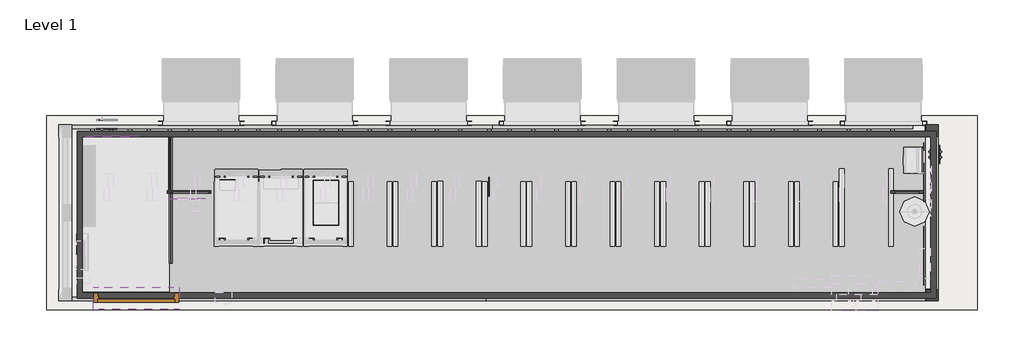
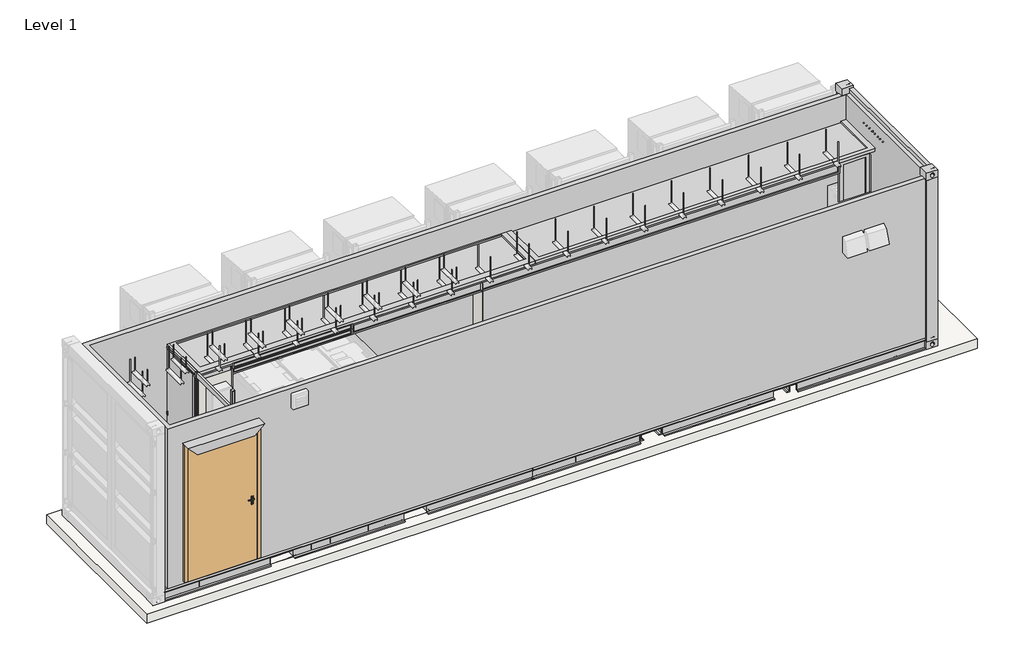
# One storey, part 1 of 2: 45 beams, 7 walls, 2 doors, 2 slabs.
"""IFC4 building model written with IfcOpenShell, lengths in millimetres."""

from ifc_helpers import new_model, si_unit, frame, origin, place, context, project, spatial, polyline, circle_curve, outline, extrude, transform, mapped, element, save
from ifc_brep_helpers import plane_surface, cylinder_surface, advanced_brep
from components import beam_16bb976f, beam_f6256054, beam_cf861e54, beam_f05dd575, c120x45_62af5141, c120x45_5c9b4daa, foot_stand_and_door_shade_foot_stand_and_door_shade_9e24d134, door_5ed18baa, door_f1603644, slab_0a3f1999

model = new_model("IFC4")

# Units and contexts
model_context = context("Model", 3, world=origin())
ifc_project = project(units=[si_unit("LENGTHUNIT", "METRE", prefix="MILLI")], contexts=[model_context])

# Site, building, storey
site = spatial("IfcSite", under=ifc_project)
building = spatial("IfcBuilding", under=site)
storey = spatial("IfcBuildingStorey", under=building, Name="Level 1", Elevation=0.0)

# Beams
placement = place(None, origin())
beam_shape = beam_16bb976f(model_context)
element("IfcBeam", 1, ObjectType="Base_cover_Config-6 : Base_cover_Config-6", at=placement, inside=storey, context=model_context, shape_type="MappedRepresentation", body=[
    mapped(beam_shape, transform((-1145.3838032, -1779.2772175, 0.0), x_axis=(1.0, 0.0, 0.0), y_axis=(0.0, 1.0, 0.0), z_axis=(0.0, 0.0, 1.0))),
])
beam_2_shape = beam_f6256054(model_context)
element("IfcBeam", 2, ObjectType="Insulation_config6 : Insulation_config6", at=placement, inside=storey, context=model_context, shape_type="MappedRepresentation", body=[
    mapped(beam_2_shape, transform((-5492.9481959, -3404.7772175, 0.0), x_axis=(1.0, 0.0, 0.0), y_axis=(0.0, 1.0, 0.0), z_axis=(0.0, 0.0, 1.0))),
])
beam_3_shape = beam_cf861e54(model_context)
element("IfcBeam", 3, ObjectType="Inside Partition Config-6 : Inside Partition Config-6", at=placement, inside=storey, context=model_context, shape_type="MappedRepresentation", body=[
    mapped(beam_3_shape, transform((-1088.8167405, -1059.0549953, 4.2), x_axis=(1.0, 0.0, 0.0), y_axis=(0.0, 1.0, 0.0), z_axis=(0.0, 0.0, 1.0))),
])
beam_4_shape = beam_f05dd575(model_context)
element("IfcBeam", 4, ObjectType="Config-6 Right side wall acc : Config-6 Right side wall acc", at=placement, inside=storey, context=model_context, shape_type="MappedRepresentation", body=[
    mapped(beam_4_shape, transform((4978.8891977, -2915.458701, 250.9999942), x_axis=(1.0, 0.0, 0.0), y_axis=(0.0, 1.0, 0.0), z_axis=(0.0, 0.0, 1.0))),
])
c120x45_shape = c120x45_62af5141(model_context)
element("IfcBeam", 5, ObjectType="M_C-Channel_305x105 : C120x45", at=placement, inside=storey, context=model_context, shape_type="MappedRepresentation", body=[
    mapped(c120x45_shape, transform((-3750.0018007, -1755.2772175, 324.0), x_axis=(0.0, -1.0, 0.0), y_axis=(1.0, 0.0, 0.0), z_axis=(0.0, 0.0, 1.0))),
])
element("IfcBeam", 6, ObjectType="M_C-Channel_305x105 : C120x45", at=placement, inside=storey, context=model_context, shape_type="MappedRepresentation", body=[
    mapped(c120x45_shape, transform((-3490.0018007, -1755.2772175, 324.0), x_axis=(0.0, -1.0, 0.0), y_axis=(1.0, 0.0, 0.0), z_axis=(0.0, 0.0, 1.0))),
])
element("IfcBeam", 7, ObjectType="M_C-Channel_305x105 : C120x45", at=placement, inside=storey, context=model_context, shape_type="MappedRepresentation", body=[
    mapped(c120x45_shape, transform((-3230.0018007, -1755.2772175, 324.0), x_axis=(0.0, -1.0, 0.0), y_axis=(1.0, 0.0, 0.0), z_axis=(0.0, 0.0, 1.0))),
])
element("IfcBeam", 8, ObjectType="M_C-Channel_305x105 : C120x45", at=placement, inside=storey, context=model_context, shape_type="MappedRepresentation", body=[
    mapped(c120x45_shape, transform((-2970.0018007, -1755.2772175, 324.0), x_axis=(0.0, -1.0, 0.0), y_axis=(1.0, 0.0, 0.0), z_axis=(0.0, 0.0, 1.0))),
])
element("IfcBeam", 9, ObjectType="M_C-Channel_305x105 : C120x45", at=placement, inside=storey, context=model_context, shape_type="MappedRepresentation", body=[
    mapped(c120x45_shape, transform((-2392.0018007, -1755.2772175, 324.0), x_axis=(0.0, -1.0, 0.0), y_axis=(1.0, 0.0, 0.0), z_axis=(0.0, 0.0, 1.0))),
])
element("IfcBeam", 10, ObjectType="M_C-Channel_305x105 : C120x45", at=placement, inside=storey, context=model_context, shape_type="MappedRepresentation", body=[
    mapped(c120x45_shape, transform((-2681.0018007, -1755.2772175, 324.0), x_axis=(0.0, -1.0, 0.0), y_axis=(1.0, 0.0, 0.0), z_axis=(0.0, 0.0, 1.0))),
])
element("IfcBeam", 11, ObjectType="M_C-Channel_305x105 : C120x45", at=placement, inside=storey, context=model_context, shape_type="MappedRepresentation", body=[
    mapped(c120x45_shape, transform((-1750.0018007, -1755.2772175, 324.0), x_axis=(0.0, -1.0, 0.0), y_axis=(1.0, 0.0, 0.0), z_axis=(0.0, 0.0, 1.0))),
])
element("IfcBeam", 12, ObjectType="M_C-Channel_305x105 : C120x45", at=placement, inside=storey, context=model_context, shape_type="MappedRepresentation", body=[
    mapped(c120x45_shape, transform((-1455.0018007, -1755.2772175, 324.0), x_axis=(0.0, -1.0, 0.0), y_axis=(1.0, 0.0, 0.0), z_axis=(0.0, 0.0, 1.0))),
])
element("IfcBeam", 13, ObjectType="M_C-Channel_305x105 : C120x45", at=placement, inside=storey, context=model_context, shape_type="MappedRepresentation", body=[
    mapped(c120x45_shape, transform((-1158.964023, -1755.2772175, 324.0), x_axis=(0.0, -1.0, 0.0), y_axis=(1.0, 0.0, 0.0), z_axis=(0.0, 0.0, 1.0))),
])
element("IfcBeam", 14, ObjectType="M_C-Channel_305x105 : C120x45", at=placement, inside=storey, context=model_context, shape_type="MappedRepresentation", body=[
    mapped(c120x45_shape, transform((-865.0018007, -1755.2772175, 324.0), x_axis=(0.0, -1.0, 0.0), y_axis=(1.0, 0.0, 0.0), z_axis=(0.0, 0.0, 1.0))),
])
element("IfcBeam", 15, ObjectType="M_C-Channel_305x105 : C120x45", at=placement, inside=storey, context=model_context, shape_type="MappedRepresentation", body=[
    mapped(c120x45_shape, transform((-570.0018007, -1755.2772175, 324.0), x_axis=(0.0, -1.0, 0.0), y_axis=(1.0, 0.0, 0.0), z_axis=(0.0, 0.0, 1.0))),
])
element("IfcBeam", 16, ObjectType="M_C-Channel_305x105 : C120x45", at=placement, inside=storey, context=model_context, shape_type="MappedRepresentation", body=[
    mapped(c120x45_shape, transform((-312.0018007, -1755.2772175, 324.0), x_axis=(0.0, -1.0, 0.0), y_axis=(1.0, 0.0, 0.0), z_axis=(0.0, 0.0, 1.0))),
])
element("IfcBeam", 17, ObjectType="M_C-Channel_305x105 : C120x45", at=placement, inside=storey, context=model_context, shape_type="MappedRepresentation", body=[
    mapped(c120x45_shape, transform((372.9981993, -1755.2772175, 324.0), x_axis=(0.0, -1.0, 0.0), y_axis=(1.0, 0.0, 0.0), z_axis=(0.0, 0.0, 1.0))),
])
element("IfcBeam", 18, ObjectType="M_C-Channel_305x105 : C120x45", at=placement, inside=storey, context=model_context, shape_type="MappedRepresentation", body=[
    mapped(c120x45_shape, transform((697.9981993, -1755.2772175, 324.0), x_axis=(0.0, -1.0, 0.0), y_axis=(1.0, 0.0, 0.0), z_axis=(0.0, 0.0, 1.0))),
])
element("IfcBeam", 19, ObjectType="M_C-Channel_305x105 : C120x45", at=placement, inside=storey, context=model_context, shape_type="MappedRepresentation", body=[
    mapped(c120x45_shape, transform((1022.9981993, -1755.2772175, 324.0), x_axis=(0.0, -1.0, 0.0), y_axis=(1.0, 0.0, 0.0), z_axis=(0.0, 0.0, 1.0))),
])
element("IfcBeam", 20, ObjectType="M_C-Channel_305x105 : C120x45", at=placement, inside=storey, context=model_context, shape_type="MappedRepresentation", body=[
    mapped(c120x45_shape, transform((1347.9981993, -1755.2772175, 324.0), x_axis=(0.0, -1.0, 0.0), y_axis=(1.0, 0.0, 0.0), z_axis=(0.0, 0.0, 1.0))),
])
element("IfcBeam", 21, ObjectType="M_C-Channel_305x105 : C120x45", at=placement, inside=storey, context=model_context, shape_type="MappedRepresentation", body=[
    mapped(c120x45_shape, transform((2032.9981993, -1755.2772175, 324.0), x_axis=(0.0, -1.0, 0.0), y_axis=(1.0, 0.0, 0.0), z_axis=(0.0, 0.0, 1.0))),
])
element("IfcBeam", 22, ObjectType="M_C-Channel_305x105 : C120x45", at=placement, inside=storey, context=model_context, shape_type="MappedRepresentation", body=[
    mapped(c120x45_shape, transform((2357.9981993, -1755.2772175, 324.0), x_axis=(0.0, -1.0, 0.0), y_axis=(1.0, 0.0, 0.0), z_axis=(0.0, 0.0, 1.0))),
])
element("IfcBeam", 23, ObjectType="M_C-Channel_305x105 : C120x45", at=placement, inside=storey, context=model_context, shape_type="MappedRepresentation", body=[
    mapped(c120x45_shape, transform((2682.9981993, -1755.2772175, 324.0), x_axis=(0.0, -1.0, 0.0), y_axis=(1.0, 0.0, 0.0), z_axis=(0.0, 0.0, 1.0))),
])
element("IfcBeam", 24, ObjectType="M_C-Channel_305x105 : C120x45", at=placement, inside=storey, context=model_context, shape_type="MappedRepresentation", body=[
    mapped(c120x45_shape, transform((3007.9981993, -1755.2772175, 324.0), x_axis=(0.0, -1.0, 0.0), y_axis=(1.0, 0.0, 0.0), z_axis=(0.0, 0.0, 1.0))),
])
element("IfcBeam", 25, ObjectType="M_C-Channel_305x105 : C120x45", at=placement, inside=storey, context=model_context, shape_type="MappedRepresentation", body=[
    mapped(c120x45_shape, transform((3692.9981993, -1755.2772175, 324.0), x_axis=(0.0, -1.0, 0.0), y_axis=(1.0, 0.0, 0.0), z_axis=(0.0, 0.0, 1.0))),
])
element("IfcBeam", 26, ObjectType="M_C-Channel_305x105 : C120x45", at=placement, inside=storey, context=model_context, shape_type="MappedRepresentation", body=[
    mapped(c120x45_shape, transform((4017.9981993, -1755.2772175, 324.0), x_axis=(0.0, -1.0, 0.0), y_axis=(1.0, 0.0, 0.0), z_axis=(0.0, 0.0, 1.0))),
])
element("IfcBeam", 27, ObjectType="M_C-Channel_305x105 : C120x45", at=placement, inside=storey, context=model_context, shape_type="MappedRepresentation", body=[
    mapped(c120x45_shape, transform((4342.9981993, -1755.2772175, 324.0), x_axis=(0.0, -1.0, 0.0), y_axis=(1.0, 0.0, 0.0), z_axis=(0.0, 0.0, 1.0))),
])
element("IfcBeam", 28, ObjectType="M_C-Channel_305x105 : C120x45", at=placement, inside=storey, context=model_context, shape_type="MappedRepresentation", body=[
    mapped(c120x45_shape, transform((4667.9981993, -1755.2772175, 324.0), x_axis=(0.0, -1.0, 0.0), y_axis=(1.0, 0.0, 0.0), z_axis=(0.0, 0.0, 1.0))),
])
element("IfcBeam", 29, ObjectType="M_C-Channel_305x105 : C120x45", at=placement, inside=storey, context=model_context, shape_type="MappedRepresentation", body=[
    mapped(c120x45_shape, transform((5352.9981993, -1755.2772175, 324.0), x_axis=(0.0, -1.0, 0.0), y_axis=(1.0, 0.0, 0.0), z_axis=(0.0, 0.0, 1.0))),
])
element("IfcBeam", 30, ObjectType="M_C-Channel_305x105 : C120x45", at=placement, inside=storey, context=model_context, shape_type="MappedRepresentation", body=[
    mapped(c120x45_shape, transform((5677.9981993, -1755.2772175, 324.0), x_axis=(0.0, -1.0, 0.0), y_axis=(1.0, 0.0, 0.0), z_axis=(0.0, 0.0, 1.0))),
])
element("IfcBeam", 31, ObjectType="M_C-Channel_305x105 : C120x45", at=placement, inside=storey, context=model_context, shape_type="MappedRepresentation", body=[
    mapped(c120x45_shape, transform((6002.9981993, -1755.2772175, 324.0), x_axis=(0.0, -1.0, 0.0), y_axis=(1.0, 0.0, 0.0), z_axis=(0.0, 0.0, 1.0))),
])
element("IfcBeam", 32, ObjectType="M_C-Channel_305x105 : C120x45", at=placement, inside=storey, context=model_context, shape_type="MappedRepresentation", body=[
    mapped(c120x45_shape, transform((6327.9981993, -1755.2772175, 324.0), x_axis=(0.0, -1.0, 0.0), y_axis=(1.0, 0.0, 0.0), z_axis=(0.0, 0.0, 1.0))),
])
element("IfcBeam", 33, ObjectType="M_C-Channel_305x105 : C120x45", at=placement, inside=storey, context=model_context, shape_type="MappedRepresentation", body=[
    mapped(c120x45_shape, transform((7012.9981993, -1755.2772175, 324.0), x_axis=(0.0, -1.0, 0.0), y_axis=(1.0, 0.0, 0.0), z_axis=(0.0, 0.0, 1.0))),
])
element("IfcBeam", 34, ObjectType="M_C-Channel_305x105 : C120x45", at=placement, inside=storey, context=model_context, shape_type="MappedRepresentation", body=[
    mapped(c120x45_shape, transform((7337.9981993, -1755.2772175, 324.0), x_axis=(0.0, -1.0, 0.0), y_axis=(1.0, 0.0, 0.0), z_axis=(0.0, 0.0, 1.0))),
])
c120x45_2_shape = c120x45_5c9b4daa(model_context)
element("IfcBeam", 35, ObjectType="M_C-Channel_305x105 : C120x45", at=placement, inside=storey, context=model_context, shape_type="MappedRepresentation", body=[
    mapped(c120x45_2_shape, transform((-1998.2198038, -1755.2772175, 324.0), x_axis=(0.0, -1.0, 0.0), y_axis=(1.0, 0.0, 0.0), z_axis=(0.0, 0.0, 1.0))),
])
element("IfcBeam", 36, ObjectType="M_C-Channel_305x105 : C120x45", at=placement, inside=storey, context=model_context, shape_type="MappedRepresentation", body=[
    mapped(c120x45_2_shape, transform((81.7801962, -1755.2772175, 324.0), x_axis=(0.0, -1.0, 0.0), y_axis=(1.0, 0.0, 0.0), z_axis=(0.0, 0.0, 1.0))),
])
element("IfcBeam", 37, ObjectType="M_C-Channel_305x105 : C120x45", at=placement, inside=storey, context=model_context, shape_type="MappedRepresentation", body=[
    mapped(c120x45_2_shape, transform((1741.7801962, -1755.2772175, 324.0), x_axis=(0.0, -1.0, 0.0), y_axis=(1.0, 0.0, 0.0), z_axis=(0.0, 0.0, 1.0))),
])
element("IfcBeam", 38, ObjectType="M_C-Channel_305x105 : C120x45", at=placement, inside=storey, context=model_context, shape_type="MappedRepresentation", body=[
    mapped(c120x45_2_shape, transform((3401.7801962, -1755.2772175, 324.0), x_axis=(0.0, -1.0, 0.0), y_axis=(1.0, 0.0, 0.0), z_axis=(0.0, 0.0, 1.0))),
])
element("IfcBeam", 39, ObjectType="M_C-Channel_305x105 : C120x45", at=placement, inside=storey, context=model_context, shape_type="MappedRepresentation", body=[
    mapped(c120x45_2_shape, transform((5061.7801962, -1755.2772175, 324.0), x_axis=(0.0, -1.0, 0.0), y_axis=(1.0, 0.0, 0.0), z_axis=(0.0, 0.0, 1.0))),
])
element("IfcBeam", 40, ObjectType="M_C-Channel_305x105 : C120x45", at=placement, inside=storey, context=model_context, shape_type="MappedRepresentation", body=[
    mapped(c120x45_2_shape, transform((6721.7801962, -1755.2772175, 324.0), x_axis=(0.0, -1.0, 0.0), y_axis=(1.0, 0.0, 0.0), z_axis=(0.0, 0.0, 1.0))),
])
element("IfcBeam", 41, ObjectType="M_C-Channel_305x105 : C160x47", at=placement, inside=storey, context=model_context, shape_type="AdvancedBrep", body=[
    advanced_brep(
    [(-4042.1108023, -585.7772175, 410.9999915), (-4042.1108023, -538.7772175, 410.9999915), (-4042.1108023, -551.4772175, 398.2999915), (-4042.1108023, -580.7772175, 393.6593274), (-4042.1108023, -580.7772175, 268.3406556), (-4042.1108023, -551.4772175, 263.6999915), (-4042.1108023, -538.7772175, 250.9999915), (-4042.1108023, -585.7772175, 250.9999915), (1785.8997533, -585.7772175, 410.9999915), (1785.8997533, -585.7772175, 250.9999915), (1785.8997533, -538.7772175, 250.9999915), (1785.8997533, -551.4772175, 263.6999915), (1785.8997533, -580.7772175, 268.3406556), (1785.8997533, -580.7772175, 393.6593274), (1785.8997533, -551.4772175, 398.2999915), (1785.8997533, -538.7772175, 410.9999915), (57.9269755, -580.7772175, 268.3406556), (57.9269755, -580.7772175, 365.9999967), (-302.1002467, -580.7772175, 365.9999967), (-302.1002467, -580.7772175, 268.3406556), (-2015.8963632, -580.7772175, 268.3406556), (-2015.8963632, -580.7772175, 365.999994), (-2382.1000733, -580.7772175, 365.999994), (-2382.1000733, -580.7772175, 268.3406556), (-2382.1000733, -551.4772175, 263.6999915), (57.9269755, -551.4772175, 263.6999915), (-2015.8963632, -551.4772175, 263.6999915), (-302.1002467, -551.4772175, 263.6999915), (-2382.1000733, -538.7772175, 250.9999915), (57.9269755, -538.7772175, 250.9999915), (-2015.8963632, -538.7772175, 250.9999915), (-302.1002467, -538.7772175, 250.9999915), (-2382.1000733, -585.7772175, 250.9999915), (57.9269755, -585.7772175, 250.9999915), (-2015.8963632, -585.7772175, 250.9999915), (-302.1002467, -585.7772175, 250.9999915), (-2382.1000733, -585.7772175, 365.999994), (-2015.8963632, -585.7772175, 365.999994), (-302.1002467, -585.7772175, 365.9999967), (57.9269755, -585.7772175, 365.9999967)],
    [
        (0, 1),
        (1, 2, circle_curve(frame((-4042.1108023, -551.4772175, 410.9999915), z_axis=(-1.0, 0.0, 0.0), x_axis=(0.0, 1.0, 0.0)), 12.7)),
        (2, 3),
        (3, 4),
        (4, 5),
        (5, 6, circle_curve(frame((-4042.1108023, -551.4772175, 250.9999915), z_axis=(-1.0, 0.0, 0.0), x_axis=(0.0, 1.0, 0.0)), 12.7)),
        (6, 7),
        (7, 0),
        (8, 9),
        (9, 10),
        (10, 11, circle_curve(frame((1785.8997533, -551.4772175, 250.9999915), z_axis=(1.0, 0.0, 0.0), x_axis=(0.0, 1.0, 0.0)), 12.7)),
        (11, 12),
        (12, 13),
        (13, 14),
        (14, 15, circle_curve(frame((1785.8997533, -551.4772175, 410.9999915), z_axis=(1.0, 0.0, 0.0), x_axis=(0.0, 1.0, 0.0)), 12.7)),
        (15, 8),
        (0, 8),
        (15, 1),
        (14, 2),
        (13, 3),
        (12, 16),
        (16, 17),
        (17, 18),
        (18, 19),
        (19, 20),
        (20, 21),
        (21, 22),
        (22, 23),
        (23, 4),
        (23, 24),
        (24, 5),
        (11, 25),
        (25, 16),
        (26, 20),
        (19, 27),
        (27, 26),
        (24, 28, circle_curve(frame((-2382.1000733, -551.4772175, 250.9999915), z_axis=(-1.0, 0.0, 0.0), x_axis=(0.0, 1.0, 0.0)), 12.7)),
        (28, 6),
        (10, 29),
        (29, 25, circle_curve(frame((57.9269755, -551.4772175, 250.9999915), z_axis=(1.0, 0.0, 0.0), x_axis=(0.0, 1.0, 0.0)), 12.7)),
        (30, 26, circle_curve(frame((-2015.8963632, -551.4772175, 250.9999915), z_axis=(1.0, 0.0, 0.0), x_axis=(0.0, 1.0, 0.0)), 12.7)),
        (27, 31, circle_curve(frame((-302.1002467, -551.4772175, 250.9999915), z_axis=(-1.0, 0.0, 0.0), x_axis=(0.0, 1.0, 0.0)), 12.7)),
        (31, 30),
        (28, 32),
        (32, 7),
        (9, 33),
        (33, 29),
        (34, 30),
        (31, 35),
        (35, 34),
        (32, 36),
        (36, 37),
        (37, 34),
        (35, 38),
        (38, 39),
        (39, 33),
        (36, 22),
        (21, 37),
        (38, 18),
        (17, 39),
    ],
    [
        plane_surface(frame((-4042.1108023, -564.7772175, 330.9999915), z_axis=(-1.0, 0.0, 0.0), x_axis=(0.0, 0.0, 1.0))),
        plane_surface(frame((1785.8997533, -564.7772175, 330.9999915), z_axis=(1.0, 0.0, 0.0), x_axis=(0.0, 0.0, 1.0))),
        plane_surface(frame((-4042.1108023, -585.7772175, 410.9999915), z_axis=(0.0, 0.0, 1.0), x_axis=(1.0, 0.0, 0.0))),
        cylinder_surface(frame((-4042.1108023, -551.4772175, 410.9999915), z_axis=(-1.0, 0.0, 0.0), x_axis=(0.0, 1.0, 0.0)), 12.7),
        plane_surface(frame((-4042.1108023, -551.4772175, 398.2999915), z_axis=(0.0, 0.15643446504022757, -0.9876883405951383), x_axis=(1.0, 0.0, 0.0))),
        plane_surface(frame((-4042.1108023, -580.7772175, 393.6593274), z_axis=(0.0, 1.0, 0.0), x_axis=(1.0, 0.0, 0.0))),
        plane_surface(frame((-4042.1108023, -580.7772175, 268.3406556), z_axis=(0.0, 0.1564344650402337, 0.9876883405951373), x_axis=(1.0, 0.0, 0.0))),
        cylinder_surface(frame((-4042.1108023, -551.4772175, 250.9999915), z_axis=(-1.0, 0.0, 0.0), x_axis=(0.0, 1.0, 0.0)), 12.7),
        plane_surface(frame((-4042.1108023, -538.7772175, 250.9999915), z_axis=(0.0, 0.0, -1.0), x_axis=(1.0, 0.0, 0.0))),
        plane_surface(frame((-4042.1108023, -585.7772175, 250.9999915), z_axis=(0.0, -1.0, 0.0), x_axis=(1.0, 0.0, 0.0))),
        plane_surface(frame((-2382.1000733, 16483.0727825, 365.999994), z_axis=(0.0, 0.0, -1.0), x_axis=(0.0, -1.0, 0.0))),
        plane_surface(frame((-2015.8963632, 16483.0727825, 365.999994), z_axis=(-1.0, 0.0, 0.0), x_axis=(0.0, -1.0, 0.0))),
        plane_surface(frame((-2382.1000733, 16483.0727825, 250.9999915), z_axis=(1.0, 0.0, 0.0), x_axis=(0.0, -1.0, 0.0))),
        plane_surface(frame((-302.1002467, 16483.0727825, 365.9999967), z_axis=(0.0, 0.0, -1.0), x_axis=(0.0, -1.0, 0.0))),
        plane_surface(frame((57.9269755, 16483.0727825, 365.9999967), z_axis=(-1.0, 0.0, 0.0), x_axis=(0.0, -1.0, 0.0))),
        plane_surface(frame((-302.1002467, 16483.0727825, 250.9999915), z_axis=(1.0, 0.0, 0.0), x_axis=(0.0, -1.0, 0.0))),
    ],
    [
        (0, [[1, 2, 3, 4, 5, 6, 7, 8]]),
        (1, [[9, 10, 11, 12, 13, 14, 15, 16]]),
        (2, [[-1, 17, -16, 18]]),
        (3, [[-2, -18, -15, 19]]),
        (4, [[-3, -19, -14, 20]]),
        (5, [[-4, -20, -13, 21, 22, 23, 24, 25, 26, 27, 28, 29]]),
        (6, [[-5, -29, 30, 31]]),
        (6, [[-12, 32, 33, -21]]),
        (6, [[34, -25, 35, 36]]),
        (7, [[-6, -31, 37, 38]]),
        (7, [[-11, 39, 40, -32]]),
        (7, [[41, -36, 42, 43]]),
        (8, [[-7, -38, 44, 45]]),
        (8, [[-10, 46, 47, -39]]),
        (8, [[48, -43, 49, 50]]),
        (9, [[-8, -45, 51, 52, 53, -50, 54, 55, 56, -46, -9, -17]]),
        (10, [[57, -27, 58, -52]]),
        (11, [[-58, -26, -34, -41, -48, -53]]),
        (12, [[-57, -51, -44, -37, -30, -28]]),
        (13, [[59, -23, 60, -55]]),
        (14, [[-60, -22, -33, -40, -47, -56]]),
        (15, [[-59, -54, -49, -42, -35, -24]]),
    ],
),
])
element("IfcBeam", 42, ObjectType="M_C-Channel_305x105 : C160x47", at=placement, inside=storey, context=model_context, shape_type="AdvancedBrep", body=[
    advanced_brep(
    [(-4042.1108023, -2971.7772175, 410.9999915), (-4042.1108023, -2924.7772175, 410.9999915), (-4042.1108023, -2924.7772175, 250.9999915), (-4042.1108023, -2971.7772175, 250.9999915), (-4042.1108023, -2959.0772175, 263.6999915), (-4042.1108023, -2929.7772175, 268.3406556), (-4042.1108023, -2929.7772175, 393.6593274), (-4042.1108023, -2959.0772175, 398.2999915), (1692.8997533, -2924.7772175, 250.9999915), (1692.8997533, -2924.7772175, 410.9999915), (1692.8997533, -2971.7772175, 410.9999915), (1692.8997533, -2959.0772175, 398.2999915), (1692.8997533, -2929.7772175, 393.6593274), (1692.8997533, -2929.7772175, 268.3406556), (1692.8997533, -2959.0772175, 263.6999915), (1692.8997533, -2971.7772175, 250.9999915), (-2382.1000733, -2929.7772175, 268.3406556), (-2382.1000733, -2929.7772175, 365.999994), (-2015.8963632, -2929.7772175, 365.999994), (-2015.8963632, -2929.7772175, 268.3406556), (-302.1002467, -2929.7772175, 268.3406556), (-302.1002467, -2929.7772175, 365.9999967), (57.9269755, -2929.7772175, 365.9999967), (57.9269755, -2929.7772175, 268.3406556), (-2382.1000733, -2959.0772175, 263.6999915), (57.9269755, -2959.0772175, 263.6999915), (-2015.8963632, -2959.0772175, 263.6999915), (-302.1002467, -2959.0772175, 263.6999915), (-2382.1000733, -2971.7772175, 250.9999915), (57.9269755, -2971.7772175, 250.9999915), (-2015.8963632, -2971.7772175, 250.9999915), (-302.1002467, -2971.7772175, 250.9999915), (-2382.1000733, -2924.7772175, 250.9999915), (57.9269755, -2924.7772175, 250.9999915), (-2015.8963632, -2924.7772175, 250.9999915), (-302.1002467, -2924.7772175, 250.9999915), (57.9269755, -2924.7772175, 365.9999967), (-302.1002467, -2924.7772175, 365.9999967), (-2015.8963632, -2924.7772175, 365.999994), (-2382.1000733, -2924.7772175, 365.999994)],
    [
        (0, 1),
        (1, 2),
        (2, 3),
        (3, 4, circle_curve(frame((-4042.1108023, -2959.0772175, 250.9999915), z_axis=(-1.0, 0.0, 0.0), x_axis=(0.0, -1.0, 0.0)), 12.7)),
        (4, 5),
        (5, 6),
        (6, 7),
        (7, 0, circle_curve(frame((-4042.1108023, -2959.0772175, 410.9999915), z_axis=(-1.0, 0.0, 0.0), x_axis=(0.0, -1.0, 0.0)), 12.7)),
        (8, 9),
        (9, 10),
        (10, 11, circle_curve(frame((1692.8997533, -2959.0772175, 410.9999915), z_axis=(1.0, 0.0, 0.0), x_axis=(0.0, -1.0, 0.0)), 12.7)),
        (11, 12),
        (12, 13),
        (13, 14),
        (14, 15, circle_curve(frame((1692.8997533, -2959.0772175, 250.9999915), z_axis=(1.0, 0.0, 0.0), x_axis=(0.0, -1.0, 0.0)), 12.7)),
        (15, 8),
        (0, 10),
        (9, 1),
        (7, 11),
        (6, 12),
        (5, 16),
        (16, 17),
        (17, 18),
        (18, 19),
        (19, 20),
        (20, 21),
        (21, 22),
        (22, 23),
        (23, 13),
        (4, 24),
        (24, 16),
        (23, 25),
        (25, 14),
        (19, 26),
        (26, 27),
        (27, 20),
        (3, 28),
        (28, 24, circle_curve(frame((-2382.1000733, -2959.0772175, 250.9999915), z_axis=(-1.0, 0.0, 0.0), x_axis=(0.0, -1.0, 0.0)), 12.7)),
        (25, 29, circle_curve(frame((57.9269755, -2959.0772175, 250.9999915), z_axis=(1.0, 0.0, 0.0), x_axis=(0.0, -1.0, 0.0)), 12.7)),
        (29, 15),
        (26, 30, circle_curve(frame((-2015.8963632, -2959.0772175, 250.9999915), z_axis=(1.0, 0.0, 0.0), x_axis=(0.0, -1.0, 0.0)), 12.7)),
        (30, 31),
        (31, 27, circle_curve(frame((-302.1002467, -2959.0772175, 250.9999915), z_axis=(-1.0, 0.0, 0.0), x_axis=(0.0, -1.0, 0.0)), 12.7)),
        (2, 32),
        (32, 28),
        (29, 33),
        (33, 8),
        (30, 34),
        (34, 35),
        (35, 31),
        (33, 36),
        (36, 37),
        (37, 35),
        (34, 38),
        (38, 39),
        (39, 32),
        (17, 39),
        (38, 18),
        (21, 37),
        (36, 22),
    ],
    [
        plane_surface(frame((-4042.1108023, -2945.7772175, 330.9999915), z_axis=(-1.0, 0.0, 0.0), x_axis=(0.0, 0.0, 1.0))),
        plane_surface(frame((1692.8997533, -2945.7772175, 330.9999915), z_axis=(1.0, 0.0, 0.0), x_axis=(0.0, 0.0, 1.0))),
        plane_surface(frame((-4042.1108023, -2924.7772175, 410.9999915), z_axis=(0.0, 0.0, 1.0), x_axis=(1.0, 0.0, 0.0))),
        cylinder_surface(frame((-4042.1108023, -2959.0772175, 410.9999915), z_axis=(-1.0, 0.0, 0.0), x_axis=(0.0, -1.0, 0.0)), 12.7),
        plane_surface(frame((-4042.1108023, -2959.0772175, 398.2999915), z_axis=(0.0, -0.15643446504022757, -0.9876883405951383), x_axis=(1.0, 0.0, 0.0))),
        plane_surface(frame((-4042.1108023, -2929.7772175, 393.6593274), z_axis=(0.0, -1.0, 0.0), x_axis=(1.0, 0.0, 0.0))),
        plane_surface(frame((-4042.1108023, -2929.7772175, 268.3406556), z_axis=(0.0, -0.1564344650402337, 0.9876883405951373), x_axis=(1.0, 0.0, 0.0))),
        cylinder_surface(frame((-4042.1108023, -2959.0772175, 250.9999915), z_axis=(-1.0, 0.0, 0.0), x_axis=(0.0, -1.0, 0.0)), 12.7),
        plane_surface(frame((-4042.1108023, -2971.7772175, 250.9999915), z_axis=(0.0, 0.0, -1.0), x_axis=(1.0, 0.0, 0.0))),
        plane_surface(frame((-4042.1108023, -2924.7772175, 250.9999915), z_axis=(0.0, 1.0, 0.0), x_axis=(1.0, 0.0, 0.0))),
        plane_surface(frame((-2382.1000733, 14097.0727825, 365.999994), z_axis=(0.0, 0.0, -1.0), x_axis=(0.0, -1.0, 0.0))),
        plane_surface(frame((-2015.8963632, 14097.0727825, 365.999994), z_axis=(-1.0, 0.0, 0.0), x_axis=(0.0, -1.0, 0.0))),
        plane_surface(frame((-2382.1000733, 14097.0727825, 250.9999915), z_axis=(1.0, 0.0, 0.0), x_axis=(0.0, -1.0, 0.0))),
        plane_surface(frame((-302.1002467, 14097.0727825, 365.9999967), z_axis=(0.0, 0.0, -1.0), x_axis=(0.0, -1.0, 0.0))),
        plane_surface(frame((57.9269755, 14097.0727825, 365.9999967), z_axis=(-1.0, 0.0, 0.0), x_axis=(0.0, -1.0, 0.0))),
        plane_surface(frame((-302.1002467, 14097.0727825, 250.9999915), z_axis=(1.0, 0.0, 0.0), x_axis=(0.0, -1.0, 0.0))),
    ],
    [
        (0, [[1, 2, 3, 4, 5, 6, 7, 8]]),
        (1, [[9, 10, 11, 12, 13, 14, 15, 16]]),
        (2, [[-1, 17, -10, 18]]),
        (3, [[-8, 19, -11, -17]]),
        (4, [[-7, 20, -12, -19]]),
        (5, [[-6, 21, 22, 23, 24, 25, 26, 27, 28, 29, -13, -20]]),
        (6, [[-5, 30, 31, -21]]),
        (6, [[-14, -29, 32, 33]]),
        (6, [[34, 35, 36, -25]]),
        (7, [[-4, 37, 38, -30]]),
        (7, [[-15, -33, 39, 40]]),
        (7, [[41, 42, 43, -35]]),
        (8, [[-3, 44, 45, -37]]),
        (8, [[-16, -40, 46, 47]]),
        (8, [[48, 49, 50, -42]]),
        (9, [[-2, -18, -9, -47, 51, 52, 53, -49, 54, 55, 56, -44]]),
        (10, [[-23, 57, -55, 58]]),
        (11, [[-24, -58, -54, -48, -41, -34]]),
        (12, [[-22, -31, -38, -45, -56, -57]]),
        (13, [[59, -52, 60, -27]]),
        (14, [[-60, -51, -46, -39, -32, -28]]),
        (15, [[-59, -26, -36, -43, -50, -53]]),
    ],
),
])
element("IfcBeam", 43, ObjectType="M_C-Channel_305x105 : C160x47", at=placement, inside=storey, context=model_context, shape_type="AdvancedBrep", body=[
    advanced_brep(
    [(1785.8997533, -585.7772175, 410.9999915), (1785.8997533, -538.7772175, 410.9999915), (1785.8997533, -551.4772175, 398.2999915), (1785.8997533, -580.7772175, 393.6593274), (1785.8997533, -580.7772175, 268.3406556), (1785.8997533, -551.4772175, 263.6999915), (1785.8997533, -538.7772175, 250.9999915), (1785.8997533, -585.7772175, 250.9999915), (7613.9103088, -585.7772175, 410.9999915), (7613.9103088, -585.7772175, 250.9999915), (7613.9103088, -538.7772175, 250.9999915), (7613.9103088, -551.4772175, 263.6999915), (7613.9103088, -580.7772175, 268.3406556), (7613.9103088, -580.7772175, 393.6593274), (7613.9103088, -551.4772175, 398.2999915), (7613.9103088, -538.7772175, 410.9999915), (5885.9375311, -580.7772175, 268.3406556), (5885.9375311, -580.7772175, 365.9999967), (5525.9103088, -580.7772175, 365.9999967), (5525.9103088, -580.7772175, 268.3406556), (3812.1141924, -580.7772175, 268.3406556), (3812.1141924, -580.7772175, 365.999994), (3445.9104822, -580.7772175, 365.999994), (3445.9104822, -580.7772175, 268.3406556), (3445.9104822, -551.4772175, 263.6999915), (5885.9375311, -551.4772175, 263.6999915), (3812.1141924, -551.4772175, 263.6999915), (5525.9103088, -551.4772175, 263.6999915), (3445.9104822, -538.7772175, 250.9999915), (5885.9375311, -538.7772175, 250.9999915), (3812.1141924, -538.7772175, 250.9999915), (5525.9103088, -538.7772175, 250.9999915), (3445.9104822, -585.7772175, 250.9999915), (5885.9375311, -585.7772175, 250.9999915), (3812.1141924, -585.7772175, 250.9999915), (5525.9103088, -585.7772175, 250.9999915), (3445.9104822, -585.7772175, 365.999994), (3812.1141924, -585.7772175, 365.999994), (5525.9103088, -585.7772175, 365.9999967), (5885.9375311, -585.7772175, 365.9999967)],
    [
        (0, 1),
        (1, 2, circle_curve(frame((1785.8997533, -551.4772175, 410.9999915), z_axis=(-1.0, 0.0, 0.0), x_axis=(0.0, 1.0, 0.0)), 12.7)),
        (2, 3),
        (3, 4),
        (4, 5),
        (5, 6, circle_curve(frame((1785.8997533, -551.4772175, 250.9999915), z_axis=(-1.0, 0.0, 0.0), x_axis=(0.0, 1.0, 0.0)), 12.7)),
        (6, 7),
        (7, 0),
        (8, 9),
        (9, 10),
        (10, 11, circle_curve(frame((7613.9103088, -551.4772175, 250.9999915), z_axis=(1.0, 0.0, 0.0), x_axis=(0.0, 1.0, 0.0)), 12.7)),
        (11, 12),
        (12, 13),
        (13, 14),
        (14, 15, circle_curve(frame((7613.9103088, -551.4772175, 410.9999915), z_axis=(1.0, 0.0, 0.0), x_axis=(0.0, 1.0, 0.0)), 12.7)),
        (15, 8),
        (0, 8),
        (15, 1),
        (14, 2),
        (13, 3),
        (12, 16),
        (16, 17),
        (17, 18),
        (18, 19),
        (19, 20),
        (20, 21),
        (21, 22),
        (22, 23),
        (23, 4),
        (23, 24),
        (24, 5),
        (11, 25),
        (25, 16),
        (26, 20),
        (19, 27),
        (27, 26),
        (24, 28, circle_curve(frame((3445.9104822, -551.4772175, 250.9999915), z_axis=(-1.0, 0.0, 0.0), x_axis=(0.0, 1.0, 0.0)), 12.7)),
        (28, 6),
        (10, 29),
        (29, 25, circle_curve(frame((5885.9375311, -551.4772175, 250.9999915), z_axis=(1.0, 0.0, 0.0), x_axis=(0.0, 1.0, 0.0)), 12.7)),
        (30, 26, circle_curve(frame((3812.1141924, -551.4772175, 250.9999915), z_axis=(1.0, 0.0, 0.0), x_axis=(0.0, 1.0, 0.0)), 12.7)),
        (27, 31, circle_curve(frame((5525.9103088, -551.4772175, 250.9999915), z_axis=(-1.0, 0.0, 0.0), x_axis=(0.0, 1.0, 0.0)), 12.7)),
        (31, 30),
        (28, 32),
        (32, 7),
        (9, 33),
        (33, 29),
        (34, 30),
        (31, 35),
        (35, 34),
        (32, 36),
        (36, 37),
        (37, 34),
        (35, 38),
        (38, 39),
        (39, 33),
        (36, 22),
        (21, 37),
        (38, 18),
        (17, 39),
    ],
    [
        plane_surface(frame((1785.8997533, -564.7772175, 330.9999915), z_axis=(-1.0, 0.0, 0.0), x_axis=(0.0, 0.0, 1.0))),
        plane_surface(frame((7613.9103088, -564.7772175, 330.9999915), z_axis=(1.0, 0.0, 0.0), x_axis=(0.0, 0.0, 1.0))),
        plane_surface(frame((1785.8997533, -585.7772175, 410.9999915), z_axis=(0.0, 0.0, 1.0), x_axis=(1.0, 0.0, 0.0))),
        cylinder_surface(frame((1785.8997533, -551.4772175, 410.9999915), z_axis=(-1.0, 0.0, 0.0), x_axis=(0.0, 1.0, 0.0)), 12.7),
        plane_surface(frame((1785.8997533, -551.4772175, 398.2999915), z_axis=(0.0, 0.15643446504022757, -0.9876883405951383), x_axis=(1.0, 0.0, 0.0))),
        plane_surface(frame((1785.8997533, -580.7772175, 393.6593274), z_axis=(0.0, 1.0, 0.0), x_axis=(1.0, 0.0, 0.0))),
        plane_surface(frame((1785.8997533, -580.7772175, 268.3406556), z_axis=(0.0, 0.1564344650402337, 0.9876883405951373), x_axis=(1.0, 0.0, 0.0))),
        cylinder_surface(frame((1785.8997533, -551.4772175, 250.9999915), z_axis=(-1.0, 0.0, 0.0), x_axis=(0.0, 1.0, 0.0)), 12.7),
        plane_surface(frame((1785.8997533, -538.7772175, 250.9999915), z_axis=(0.0, 0.0, -1.0), x_axis=(1.0, 0.0, 0.0))),
        plane_surface(frame((1785.8997533, -585.7772175, 250.9999915), z_axis=(0.0, -1.0, 0.0), x_axis=(1.0, 0.0, 0.0))),
        plane_surface(frame((3445.9104822, 16483.0727825, 365.999994), z_axis=(0.0, 0.0, -1.0), x_axis=(0.0, -1.0, 0.0))),
        plane_surface(frame((3812.1141924, 16483.0727825, 365.999994), z_axis=(-1.0, 0.0, 0.0), x_axis=(0.0, -1.0, 0.0))),
        plane_surface(frame((3445.9104822, 16483.0727825, 250.9999915), z_axis=(1.0, 0.0, 0.0), x_axis=(0.0, -1.0, 0.0))),
        plane_surface(frame((5525.9103088, 16483.0727825, 365.9999967), z_axis=(0.0, 0.0, -1.0), x_axis=(0.0, -1.0, 0.0))),
        plane_surface(frame((5885.9375311, 16483.0727825, 365.9999967), z_axis=(-1.0, 0.0, 0.0), x_axis=(0.0, -1.0, 0.0))),
        plane_surface(frame((5525.9103088, 16483.0727825, 250.9999915), z_axis=(1.0, 0.0, 0.0), x_axis=(0.0, -1.0, 0.0))),
    ],
    [
        (0, [[1, 2, 3, 4, 5, 6, 7, 8]]),
        (1, [[9, 10, 11, 12, 13, 14, 15, 16]]),
        (2, [[-1, 17, -16, 18]]),
        (3, [[-2, -18, -15, 19]]),
        (4, [[-3, -19, -14, 20]]),
        (5, [[-4, -20, -13, 21, 22, 23, 24, 25, 26, 27, 28, 29]]),
        (6, [[-5, -29, 30, 31]]),
        (6, [[-12, 32, 33, -21]]),
        (6, [[34, -25, 35, 36]]),
        (7, [[-6, -31, 37, 38]]),
        (7, [[-11, 39, 40, -32]]),
        (7, [[41, -36, 42, 43]]),
        (8, [[-7, -38, 44, 45]]),
        (8, [[-10, 46, 47, -39]]),
        (8, [[48, -43, 49, 50]]),
        (9, [[-8, -45, 51, 52, 53, -50, 54, 55, 56, -46, -9, -17]]),
        (10, [[57, -27, 58, -52]]),
        (11, [[-58, -26, -34, -41, -48, -53]]),
        (12, [[-57, -51, -44, -37, -30, -28]]),
        (13, [[59, -23, 60, -55]]),
        (14, [[-60, -22, -33, -40, -47, -56]]),
        (15, [[-59, -54, -49, -42, -35, -24]]),
    ],
),
])
element("IfcBeam", 44, ObjectType="M_C-Channel_305x105 : C160x47", at=placement, inside=storey, context=model_context, shape_type="AdvancedBrep", body=[
    advanced_brep(
    [(1675.6589779, -2971.7772175, 410.9999915), (1675.6589779, -2924.7772175, 410.9999915), (1675.6589779, -2924.7772175, 250.9999915), (1675.6589779, -2971.7772175, 250.9999915), (1675.6589779, -2959.0772175, 263.6999915), (1675.6589779, -2929.7772175, 268.3406556), (1675.6589779, -2929.7772175, 393.6593274), (1675.6589779, -2959.0772175, 398.2999915), (7789.8891977, -2924.7772175, 250.9999915), (7789.8891977, -2924.7772175, 410.9999915), (7789.8891977, -2971.7772175, 410.9999915), (7789.8891977, -2959.0772175, 398.2999915), (7789.8891977, -2929.7772175, 393.6593274), (7789.8891977, -2929.7772175, 268.3406556), (7789.8891977, -2959.0772175, 263.6999915), (7789.8891977, -2971.7772175, 250.9999915), (3359.6697069, -2929.7772175, 268.3406556), (3359.6697069, -2929.7772175, 365.999994), (3725.873417, -2929.7772175, 365.999994), (3725.873417, -2929.7772175, 268.3406556), (5439.6695335, -2929.7772175, 268.3406556), (5439.6695335, -2929.7772175, 365.9999967), (5799.6967557, -2929.7772175, 365.9999967), (5799.6967557, -2929.7772175, 268.3406556), (3359.6697069, -2959.0772175, 263.6999915), (5799.6967557, -2959.0772175, 263.6999915), (3725.873417, -2959.0772175, 263.6999915), (5439.6695335, -2959.0772175, 263.6999915), (3359.6697069, -2971.7772175, 250.9999915), (5799.6967557, -2971.7772175, 250.9999915), (3725.873417, -2971.7772175, 250.9999915), (5439.6695335, -2971.7772175, 250.9999915), (3359.6697069, -2924.7772175, 250.9999915), (5799.6967557, -2924.7772175, 250.9999915), (3725.873417, -2924.7772175, 250.9999915), (5439.6695335, -2924.7772175, 250.9999915), (5799.6967557, -2924.7772175, 365.9999967), (5439.6695335, -2924.7772175, 365.9999967), (3725.873417, -2924.7772175, 365.999994), (3359.6697069, -2924.7772175, 365.999994)],
    [
        (0, 1),
        (1, 2),
        (2, 3),
        (3, 4, circle_curve(frame((1675.6589779, -2959.0772175, 250.9999915), z_axis=(-1.0, 0.0, 0.0), x_axis=(0.0, -1.0, 0.0)), 12.7)),
        (4, 5),
        (5, 6),
        (6, 7),
        (7, 0, circle_curve(frame((1675.6589779, -2959.0772175, 410.9999915), z_axis=(-1.0, 0.0, 0.0), x_axis=(0.0, -1.0, 0.0)), 12.7)),
        (8, 9),
        (9, 10),
        (10, 11, circle_curve(frame((7789.8891977, -2959.0772175, 410.9999915), z_axis=(1.0, 0.0, 0.0), x_axis=(0.0, -1.0, 0.0)), 12.7)),
        (11, 12),
        (12, 13),
        (13, 14),
        (14, 15, circle_curve(frame((7789.8891977, -2959.0772175, 250.9999915), z_axis=(1.0, 0.0, 0.0), x_axis=(0.0, -1.0, 0.0)), 12.7)),
        (15, 8),
        (0, 10),
        (9, 1),
        (7, 11),
        (6, 12),
        (5, 16),
        (16, 17),
        (17, 18),
        (18, 19),
        (19, 20),
        (20, 21),
        (21, 22),
        (22, 23),
        (23, 13),
        (4, 24),
        (24, 16),
        (23, 25),
        (25, 14),
        (19, 26),
        (26, 27),
        (27, 20),
        (3, 28),
        (28, 24, circle_curve(frame((3359.6697069, -2959.0772175, 250.9999915), z_axis=(-1.0, 0.0, 0.0), x_axis=(0.0, -1.0, 0.0)), 12.7)),
        (25, 29, circle_curve(frame((5799.6967557, -2959.0772175, 250.9999915), z_axis=(1.0, 0.0, 0.0), x_axis=(0.0, -1.0, 0.0)), 12.7)),
        (29, 15),
        (26, 30, circle_curve(frame((3725.873417, -2959.0772175, 250.9999915), z_axis=(1.0, 0.0, 0.0), x_axis=(0.0, -1.0, 0.0)), 12.7)),
        (30, 31),
        (31, 27, circle_curve(frame((5439.6695335, -2959.0772175, 250.9999915), z_axis=(-1.0, 0.0, 0.0), x_axis=(0.0, -1.0, 0.0)), 12.7)),
        (2, 32),
        (32, 28),
        (29, 33),
        (33, 8),
        (30, 34),
        (34, 35),
        (35, 31),
        (33, 36),
        (36, 37),
        (37, 35),
        (34, 38),
        (38, 39),
        (39, 32),
        (17, 39),
        (38, 18),
        (21, 37),
        (36, 22),
    ],
    [
        plane_surface(frame((1675.6589779, -2945.7772175, 330.9999915), z_axis=(-1.0, 0.0, 0.0), x_axis=(0.0, 0.0, 1.0))),
        plane_surface(frame((7789.8891977, -2945.7772175, 330.9999915), z_axis=(1.0, 0.0, 0.0), x_axis=(0.0, 0.0, 1.0))),
        plane_surface(frame((1675.6589779, -2924.7772175, 410.9999915), z_axis=(0.0, 0.0, 1.0), x_axis=(1.0, 0.0, 0.0))),
        cylinder_surface(frame((1675.6589779, -2959.0772175, 410.9999915), z_axis=(-1.0, 0.0, 0.0), x_axis=(0.0, -1.0, 0.0)), 12.7),
        plane_surface(frame((1675.6589779, -2959.0772175, 398.2999915), z_axis=(0.0, -0.15643446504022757, -0.9876883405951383), x_axis=(1.0, 0.0, 0.0))),
        plane_surface(frame((1675.6589779, -2929.7772175, 393.6593274), z_axis=(0.0, -1.0, 0.0), x_axis=(1.0, 0.0, 0.0))),
        plane_surface(frame((1675.6589779, -2929.7772175, 268.3406556), z_axis=(0.0, -0.1564344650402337, 0.9876883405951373), x_axis=(1.0, 0.0, 0.0))),
        cylinder_surface(frame((1675.6589779, -2959.0772175, 250.9999915), z_axis=(-1.0, 0.0, 0.0), x_axis=(0.0, -1.0, 0.0)), 12.7),
        plane_surface(frame((1675.6589779, -2971.7772175, 250.9999915), z_axis=(0.0, 0.0, -1.0), x_axis=(1.0, 0.0, 0.0))),
        plane_surface(frame((1675.6589779, -2924.7772175, 250.9999915), z_axis=(0.0, 1.0, 0.0), x_axis=(1.0, 0.0, 0.0))),
        plane_surface(frame((3359.6697069, 14090.3135578, 365.999994), z_axis=(0.0, 0.0, -1.0), x_axis=(0.0, -1.0, 0.0))),
        plane_surface(frame((3725.873417, 14090.3135578, 365.999994), z_axis=(-1.0, 0.0, 0.0), x_axis=(0.0, -1.0, 0.0))),
        plane_surface(frame((3359.6697069, 14090.3135578, 250.9999915), z_axis=(1.0, 0.0, 0.0), x_axis=(0.0, -1.0, 0.0))),
        plane_surface(frame((5439.6695335, 14090.3135578, 365.9999967), z_axis=(0.0, 0.0, -1.0), x_axis=(0.0, -1.0, 0.0))),
        plane_surface(frame((5799.6967557, 14090.3135578, 365.9999967), z_axis=(-1.0, 0.0, 0.0), x_axis=(0.0, -1.0, 0.0))),
        plane_surface(frame((5439.6695335, 14090.3135578, 250.9999915), z_axis=(1.0, 0.0, 0.0), x_axis=(0.0, -1.0, 0.0))),
    ],
    [
        (0, [[1, 2, 3, 4, 5, 6, 7, 8]]),
        (1, [[9, 10, 11, 12, 13, 14, 15, 16]]),
        (2, [[-1, 17, -10, 18]]),
        (3, [[-8, 19, -11, -17]]),
        (4, [[-7, 20, -12, -19]]),
        (5, [[-6, 21, 22, 23, 24, 25, 26, 27, 28, 29, -13, -20]]),
        (6, [[-5, 30, 31, -21]]),
        (6, [[-14, -29, 32, 33]]),
        (6, [[34, 35, 36, -25]]),
        (7, [[-4, 37, 38, -30]]),
        (7, [[-15, -33, 39, 40]]),
        (7, [[41, 42, 43, -35]]),
        (8, [[-3, 44, 45, -37]]),
        (8, [[-16, -40, 46, 47]]),
        (8, [[48, 49, 50, -42]]),
        (9, [[-2, -18, -9, -47, 51, 52, 53, -49, 54, 55, 56, -44]]),
        (10, [[-23, 57, -55, 58]]),
        (11, [[-24, -58, -54, -48, -41, -34]]),
        (12, [[-22, -31, -38, -45, -56, -57]]),
        (13, [[59, -52, 60, -27]]),
        (14, [[-60, -51, -46, -39, -32, -28]]),
        (15, [[-59, -26, -36, -43, -50, -53]]),
    ],
),
])
foot_stand_and_door_shade_foot_stand_and_door_shade_shape = foot_stand_and_door_shade_foot_stand_and_door_shade_9e24d134(model_context)
element("IfcBeam", 45, ObjectType="Foot Stand and Door shade : Foot Stand and Door shade", at=placement, inside=storey, context=model_context, shape_type="MappedRepresentation", body=[
    mapped(foot_stand_and_door_shade_foot_stand_and_door_shade_shape, transform((-3803.9508023, -3341.2578694, -225.0), x_axis=(1.0, 0.0, 0.0), y_axis=(0.0, 1.0, 0.0), z_axis=(0.0, 0.0, 1.0))),
])

# Doors
door_shape = door_5ed18baa(model_context)
element("IfcDoor", 46, ObjectType="Door_Steel_Republic_Single-DoubleRabbet-Equal : ByType", at=placement, inside=storey, context=model_context, shape_type="MappedRepresentation", body=[
    mapped(door_shape, transform((-1568.2306695, -3793.9182614, 474.0508653), x_axis=(-1.0, 0.0, 0.0), y_axis=(0.0, -1.0, 0.0), z_axis=(0.0, 0.0, 1.0))),
])
door_2_shape = door_f1603644(model_context)
element("IfcDoor", 47, ObjectType="DoorPanel_Steel_Republic_F : DoorPanel_Steel_Republic_F", at=placement, inside=storey, context=model_context, shape_type="MappedRepresentation", body=[
    mapped(door_2_shape, transform((-3150.3213662, -2974.0522175, 474.0508653), x_axis=(-1.0, 0.0, 0.0), y_axis=(0.0, -1.0, 0.0), z_axis=(0.0, 0.0, 1.0))),
])

# Slabs
slab_shape = slab_0a3f1999(model_context)
element("IfcSlab", 48, ObjectType="Config-b_bottom_channel_fill : Config-b_bottom_channel_fill", at=placement, inside=storey, context=model_context, shape_type="MappedRepresentation", body=[
    mapped(slab_shape, transform((-1177.1931474, -538.7772175, -229.7577769), x_axis=(-1.0000000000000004, 0.0, 0.0), y_axis=(0.0, -1.0000000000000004, 0.0), z_axis=(0.0, 0.0, 1.0))),
])
element("IfcSlab", 49, ObjectType="Generic 150mm", at=placement, inside=storey, context=model_context, shape_type="SweptSolid", body=[
    extrude(outline(polyline([(8511.8891977, -409.4824324), (8511.8891977, -3100.4161751), (-4394.1108023, -3100.4161751), (-4394.1108023, -409.4824324), (8511.8891977, -409.4824324)])), frame((0.0, 0.0, 102.2517841), z_axis=(0.0, 0.0, 1.0), x_axis=(1.0, 0.0, 0.0)), (0.0, 0.0, 1.0), 150.0),
])

# Walls
element("IfcWall", 50, ObjectType="Generic - 50mm 3", at=placement, inside=storey, context=model_context, shape_type="SweptSolid", body=[
    extrude(outline(polyline([(1741.3997533, -1263.4752644), (1741.3997533, -1523.4752644), (1739.3997533, -1523.4752644), (1739.3997533, -1263.4752644), (1741.3997533, -1263.4752644)])), frame((0.0, 0.0, 878.857313), z_axis=(0.0, 0.0, 1.0), x_axis=(1.0, 0.0, 0.0)), (0.0, 0.0, 1.0), 1696.2174867),
])
element("IfcWall", 51, ObjectType="Generic - 50mm 3", at=placement, inside=storey, context=model_context, shape_type="SweptSolid", body=[
    extrude(outline(polyline([(7769.6365732, -1014.7565442), (7769.6365732, -1514.7565442), (7767.6365732, -1514.7565442), (7767.6365732, -1014.7565442), (7769.6365732, -1014.7565442)])), frame((0.0, 0.0, 878.857313), z_axis=(0.0, 0.0, 1.0), x_axis=(1.0, 0.0, 0.0)), (0.0, 0.0, 1.0), 1696.2174867),
])
element("IfcWall", 52, ObjectType="Generic - 50mm 3", at=placement, inside=storey, context=model_context, shape_type="SweptSolid", body=[
    extrude(outline(polyline([(-3973.1108107, -2245.4651504), (-3973.1108107, -2505.4651504), (-3975.1108107, -2505.4651504), (-3975.1108107, -2245.4651504), (-3973.1108107, -2245.4651504)])), frame((0.0, 0.0, 878.857313), z_axis=(0.0, 0.0, 1.0), x_axis=(1.0, 0.0, 0.0)), (0.0, 0.0, 1.0), 1658.2928978),
])
element("IfcWall", 53, ObjectType="Generic - 50mm 3", at=placement, inside=storey, context=model_context, shape_type="SweptSolid", body=[
    extrude(outline(polyline([(-3121.4334393, -691.78503), (-3861.4334393, -691.78503), (-3861.4334393, -689.78503), (-3121.4334393, -689.78503), (-3121.4334393, -691.78503)])), frame((0.0, 0.0, 1960.0), z_axis=(0.0, 0.0, 1.0), x_axis=(1.0, 0.0, 0.0)), (0.0, 0.0, 1.0), 467.1118103),
])
element("IfcWall", 54, ObjectType="Generic - 50mm 3", at=placement, inside=storey, context=model_context, shape_type="SweptSolid", body=[
    extrude(outline(polyline([(7769.6365732, -779.7565442), (7769.6365732, -1599.7565442), (7767.6365732, -1599.7565442), (7767.6365732, -779.7565442), (7769.6365732, -779.7565442)])), frame((0.0, 0.0, 459.3578118), z_axis=(0.0, 0.0, 1.0), x_axis=(1.0, 0.0, 0.0)), (0.0, 0.0, 1.0), 1066.5368147),
])
element("IfcWall", 55, ObjectType="Generic - 50mm 3", at=placement, inside=storey, context=model_context, shape_type="SweptSolid", body=[
    extrude(outline(polyline([(-2184.9242767, -1558.819177), (-2705.1108023, -1558.819177), (-2705.1108023, -1556.819177), (-2184.9242767, -1556.819177), (-2184.9242767, -1558.819177)])), frame((0.0, 0.0, 1754.2543688), z_axis=(0.0, 0.0, 1.0), x_axis=(1.0, 0.0, 0.0)), (0.0, 0.0, 1.0), 802.7456312),
])
element("IfcWall", 56, ObjectType="Generic - 50mm 3", at=placement, inside=storey, context=model_context, shape_type="SweptSolid", body=[
    extrude(outline(polyline([(7769.6365732, -1939.7565442), (7769.6365732, -2759.7565442), (7767.6365732, -2759.7565442), (7767.6365732, -1939.7565442), (7769.6365732, -1939.7565442)])), frame((0.0, 0.0, 459.3578118), z_axis=(0.0, 0.0, 1.0), x_axis=(1.0, 0.0, 0.0)), (0.0, 0.0, 1.0), 1066.5368147),
])

save(model, "model.ifc")
